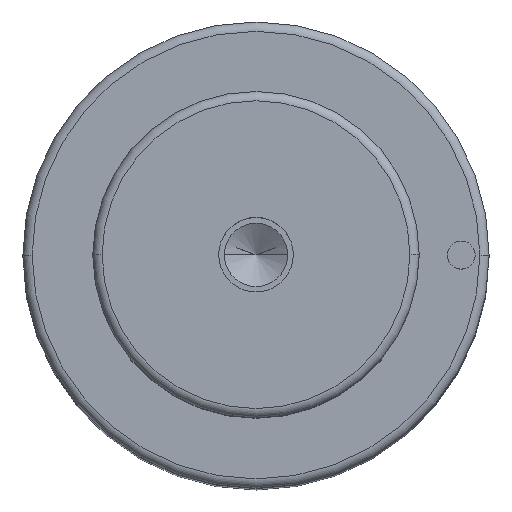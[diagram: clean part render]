
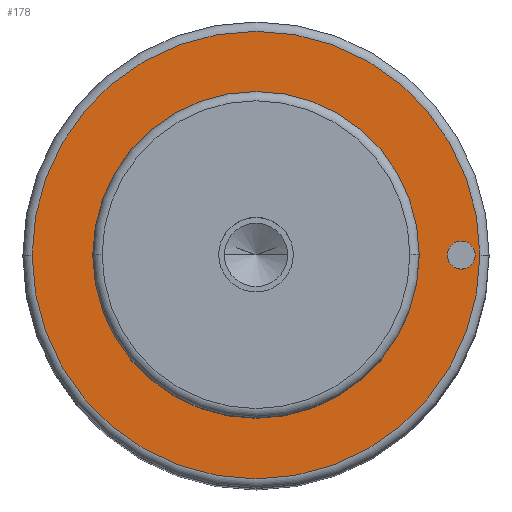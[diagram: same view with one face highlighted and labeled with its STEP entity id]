
A CAD part, top view. The second image highlights one B-rep face of the part: STEP entity #178.
In plain terms, the highlighted planar face has unit normal (0, 0, 1).
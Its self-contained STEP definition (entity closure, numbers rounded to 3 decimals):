
#105=PLANE('',#866);
#115=FACE_BOUND('',#283,.T.);
#116=FACE_BOUND('',#284,.T.);
#117=FACE_BOUND('',#285,.T.);
#178=ADVANCED_FACE('',(#115,#116,#117),#105,.T.);
#283=EDGE_LOOP('',(#473,#474));
#284=EDGE_LOOP('',(#475,#476));
#285=EDGE_LOOP('',(#477,#478));
#333=CIRCLE('',#834,17.5);
#334=CIRCLE('',#836,17.5);
#338=CIRCLE('',#841,24.);
#339=CIRCLE('',#843,24.);
#351=CIRCLE('',#864,1.5);
#352=CIRCLE('',#865,1.5);
#473=ORIENTED_EDGE('',*,*,#666,.F.);
#474=ORIENTED_EDGE('',*,*,#667,.F.);
#475=ORIENTED_EDGE('',*,*,#685,.F.);
#476=ORIENTED_EDGE('',*,*,#686,.F.);
#477=ORIENTED_EDGE('',*,*,#662,.T.);
#478=ORIENTED_EDGE('',*,*,#660,.T.);
#590=VERTEX_POINT('',#1233);
#591=VERTEX_POINT('',#1235);
#592=VERTEX_POINT('',#1241);
#595=VERTEX_POINT('',#1246);
#604=VERTEX_POINT('',#1285);
#605=VERTEX_POINT('',#1286);
#660=EDGE_CURVE('',#591,#590,#333,.T.);
#662=EDGE_CURVE('',#590,#591,#334,.T.);
#666=EDGE_CURVE('',#595,#592,#338,.T.);
#667=EDGE_CURVE('',#592,#595,#339,.T.);
#685=EDGE_CURVE('',#604,#605,#351,.T.);
#686=EDGE_CURVE('',#605,#604,#352,.T.);
#834=AXIS2_PLACEMENT_3D('',#1234,#985,#986);
#836=AXIS2_PLACEMENT_3D('',#1238,#990,#991);
#841=AXIS2_PLACEMENT_3D('',#1247,#1000,#1001);
#843=AXIS2_PLACEMENT_3D('',#1249,#1004,#1005);
#864=AXIS2_PLACEMENT_3D('',#1284,#1052,#1053);
#865=AXIS2_PLACEMENT_3D('',#1287,#1054,#1055);
#866=AXIS2_PLACEMENT_3D('',#1288,#1056,#1057);
#985=DIRECTION('',(0.,0.,-1.));
#986=DIRECTION('',(0.,1.,0.));
#990=DIRECTION('',(0.,0.,-1.));
#991=DIRECTION('',(0.,-1.,0.));
#1000=DIRECTION('',(0.,0.,-1.));
#1001=DIRECTION('',(0.,1.,0.));
#1004=DIRECTION('',(0.,0.,-1.));
#1005=DIRECTION('',(0.,-1.,0.));
#1052=DIRECTION('',(0.,0.,1.));
#1053=DIRECTION('',(0.,1.,0.));
#1054=DIRECTION('',(0.,0.,1.));
#1055=DIRECTION('',(0.,-1.,0.));
#1056=DIRECTION('',(0.,0.,1.));
#1057=DIRECTION('',(0.,-1.,0.));
#1233=CARTESIAN_POINT('',(-17.5,0.,108.));
#1234=CARTESIAN_POINT('',(0.,0.,108.));
#1235=CARTESIAN_POINT('',(17.5,0.,108.));
#1238=CARTESIAN_POINT('',(0.,0.,108.));
#1241=CARTESIAN_POINT('',(-24.,0.,108.));
#1246=CARTESIAN_POINT('',(24.,0.,108.));
#1247=CARTESIAN_POINT('',(0.,0.,108.));
#1249=CARTESIAN_POINT('',(0.,0.,108.));
#1284=CARTESIAN_POINT('',(22.,0.,108.));
#1285=CARTESIAN_POINT('',(20.5,0.,108.));
#1286=CARTESIAN_POINT('',(23.5,0.,108.));
#1287=CARTESIAN_POINT('',(22.,0.,108.));
#1288=CARTESIAN_POINT('',(0.,0.,108.));
